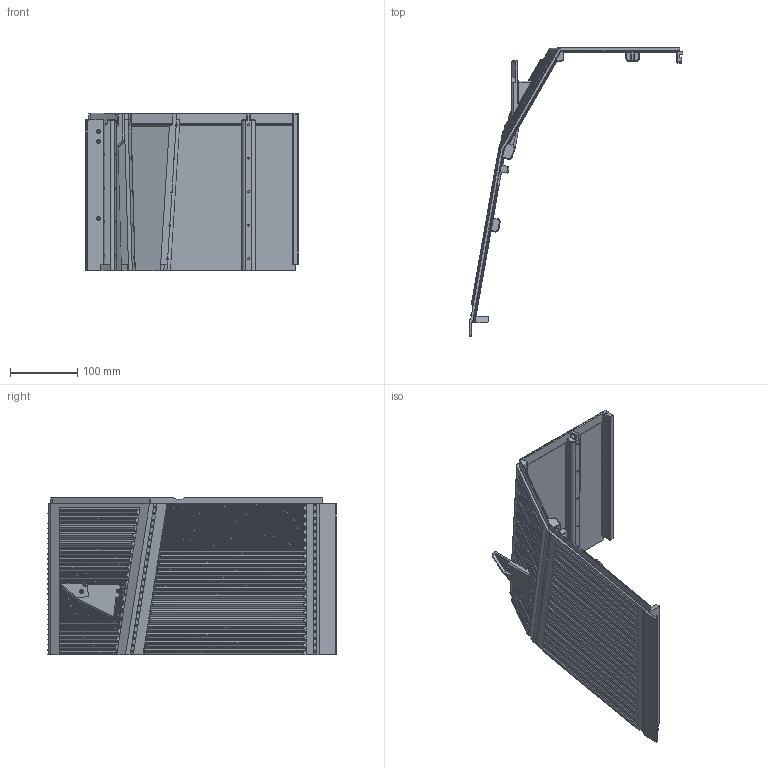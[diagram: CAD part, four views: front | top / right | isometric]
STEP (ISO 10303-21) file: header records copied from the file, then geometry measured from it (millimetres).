
FILE_DESCRIPTION(('STEP AP242 Edition 2','STEP AP242 Edition 2''CAx-IF Rec.Pracs.---Representation and Presentation of Product Manufacturing Information (PMI)---4.0---2014-10-13','STEP AP242 Edition 2''CAx-IF Rec.Pracs.---Representation and Presentation of Product Manufacturing Information (PMI)---4.0---2014-10-13''CAx-IF Rec.Pracs.---3D Tessellated Geometry---0.4---2014-09-14','STEP AP242 Edition 2''CAx-IF Rec.Pracs.---Representation and Presentation of Product Manufacturing Information (PMI)---4.0---2014-10-13''CAx-IF Rec.Pracs.---3D Tessellated Geometry---0.4---2014-09-14''2;1','STEP AP242 Edition 2''CAx-IF Rec.Pracs.---Representation and Presentation of Product Manufacturing Information (PMI)---4.0---2014-10-13''CAx-IF Rec.Pracs.---3D Tessellated Geometry---0.4---2014-09-14''2;1''CAx-IF Rec.Pracs.---User Defined Attributes---1.5---2016-08-15'),'2;1');
FILE_NAME('/vol/tmp/translate-5928582753522486027/Part Studio Body Front - Part Front Left LowerTop - Blue Car Color.step','2026-05-02T13:02:37',(''),(''),'ST-DEVELOPER v20','ONSHAPE BY PTC INC, 1.214',' ');
FILE_SCHEMA(('AP242_MANAGED_MODEL_BASED_3D_ENGINEERING_MIM_LF { 1 0 10303 442 3 1 4 }'));
Length unit declared in the file: metre
Products named in the file (1): Part Front Left LowerTop - Blue Car Color
Bounding box: 319 x 430.45 x 235 mm (x, y, z)
Volume: 951094.2 mm3; surface area: 387037.1 mm2
Topology: 1 solids, 1 shells, 1403 faces, 3552 edges, 2342 vertices
Faces by surface type: plane 865, cylinder 290, cone 201, bspline 29, torus 13, sphere 5
Full cylindrical faces by diameter (mm): 2.75 x37, 4 x3, 5.1 x1, 5.6 x3, 6.8 x1
Entity records: 44156 total; most frequent: CARTESIAN_POINT 10142, DIRECTION 6957, ORIENTED_EDGE 6698, EDGE_CURVE 3349, AXIS2_PLACEMENT_3D 2389, VERTEX_POINT 2296, LINE 2179, VECTOR 2179
